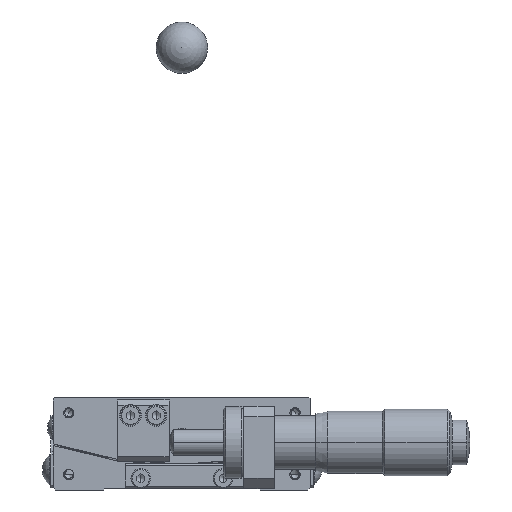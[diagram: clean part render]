
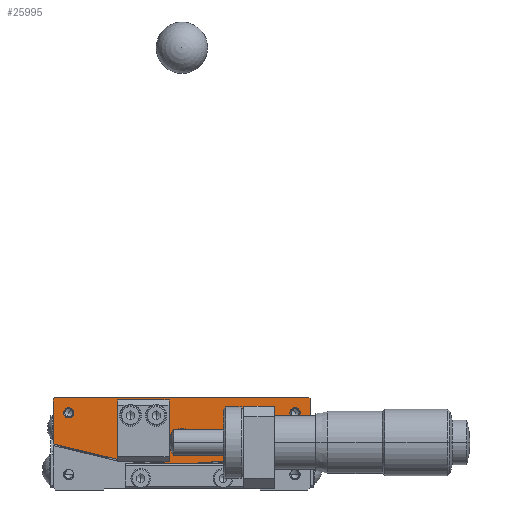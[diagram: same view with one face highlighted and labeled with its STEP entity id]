
A CAD part, front view. The second image highlights one B-rep face of the part: STEP entity #25995.
In plain terms, the highlighted planar face has unit normal (0, -1, 0).
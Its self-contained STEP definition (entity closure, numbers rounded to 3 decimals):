
#7739 = CARTESIAN_POINT ( 'NONE',  ( 0., -25., -8. ) ) ;
#7740 = AXIS2_PLACEMENT_3D ( 'NONE', #7739, #7801, #7800 ) ;
#7741 = CIRCLE ( 'NONE', #7740, 2. ) ;
#7742 = DIRECTION ( 'NONE',  ( 0., 0., -1. ) ) ;
#7743 = VECTOR ( 'NONE', #7742, 1000. ) ;
#7744 = CARTESIAN_POINT ( 'NONE',  ( -25., -25., -0.3 ) ) ;
#7745 = LINE ( 'NONE', #7744, #7743 ) ;
#7746 = CARTESIAN_POINT ( 'NONE',  ( -25., -25., -0.3 ) ) ;
#7747 = DIRECTION ( 'NONE',  ( -0.707, 0., -0.707 ) ) ;
#7748 = VECTOR ( 'NONE', #7747, 1000. ) ;
#7749 = CARTESIAN_POINT ( 'NONE',  ( -24.7, -25., 0. ) ) ;
#7750 = LINE ( 'NONE', #7749, #7748 ) ;
#7768 = CARTESIAN_POINT ( 'NONE',  ( 25., -25., -0.3 ) ) ;
#7769 = DIRECTION ( 'NONE',  ( 0., 0., 1. ) ) ;
#7770 = VECTOR ( 'NONE', #7769, 1000. ) ;
#7771 = CARTESIAN_POINT ( 'NONE',  ( 25., -25., -9.045 ) ) ;
#7772 = LINE ( 'NONE', #7771, #7770 ) ;
#7773 = CARTESIAN_POINT ( 'NONE',  ( 25., -25., -9.045 ) ) ;
#7774 = CARTESIAN_POINT ( 'NONE',  ( -25., -25., -9.045 ) ) ;
#7775 = DIRECTION ( 'NONE',  ( 1., 0., 0. ) ) ;
#7776 = DIRECTION ( 'NONE',  ( 0., -1., 0. ) ) ;
#7777 = CARTESIAN_POINT ( 'NONE',  ( 0., -25., 68. ) ) ;
#7778 = AXIS2_PLACEMENT_3D ( 'NONE', #7777, #7776, #7775 ) ;
#7779 = CIRCLE ( 'NONE', #7778, 81. ) ;
#7780 = DIRECTION ( 'NONE',  ( 1., 0., 0. ) ) ;
#7781 = DIRECTION ( 'NONE',  ( 0., -1., 0. ) ) ;
#7782 = CARTESIAN_POINT ( 'NONE',  ( 0., -25., 68. ) ) ;
#7783 = AXIS2_PLACEMENT_3D ( 'NONE', #7782, #7781, #7780 ) ;
#7784 = PLANE ( 'NONE',  #7783 ) ;
#7785 = FACE_BOUND ( 'NONE', #26051, .T. ) ;
#7786 = FACE_BOUND ( 'NONE', #26047, .T. ) ;
#7787 = FACE_BOUND ( 'NONE', #25989, .T. ) ;
#7788 = FACE_BOUND ( 'NONE', #25985, .T. ) ;
#7789 = FACE_OUTER_BOUND ( 'NONE', #25996, .T. ) ;
#7800 = DIRECTION ( 'NONE',  ( 0., 0., -1. ) ) ;
#7801 = DIRECTION ( 'NONE',  ( 0., -1., 0. ) ) ;
#7829 = DIRECTION ( 'NONE',  ( -0.707, 0., 0.707 ) ) ;
#7830 = VECTOR ( 'NONE', #7829, 1000. ) ;
#7831 = CARTESIAN_POINT ( 'NONE',  ( 25., -25., -0.3 ) ) ;
#7832 = LINE ( 'NONE', #7831, #7830 ) ;
#7839 = DIRECTION ( 'NONE',  ( 0., 0., 1. ) ) ;
#7840 = VECTOR ( 'NONE', #7839, 1000. ) ;
#7841 = CARTESIAN_POINT ( 'NONE',  ( -2.5, -25., -6.5 ) ) ;
#7842 = LINE ( 'NONE', #7841, #7840 ) ;
#7843 = CARTESIAN_POINT ( 'NONE',  ( -2.5, -25., -0.5 ) ) ;
#7844 = DIRECTION ( 'NONE',  ( 1., 0., 0. ) ) ;
#7845 = VECTOR ( 'NONE', #7844, 1000. ) ;
#7846 = CARTESIAN_POINT ( 'NONE',  ( -12.5, -25., -0.5 ) ) ;
#7847 = LINE ( 'NONE', #7846, #7845 ) ;
#7867 = CARTESIAN_POINT ( 'NONE',  ( 24.7, -25., 0. ) ) ;
#7868 = LINE ( 'NONE', #7867, #7932 ) ;
#7869 = CARTESIAN_POINT ( 'NONE',  ( 24.7, -25., 0. ) ) ;
#7870 = CARTESIAN_POINT ( 'NONE',  ( -12.5, -25., -0.5 ) ) ;
#7871 = DIRECTION ( 'NONE',  ( 0., 0., 1. ) ) ;
#7872 = VECTOR ( 'NONE', #7871, 1000. ) ;
#7873 = CARTESIAN_POINT ( 'NONE',  ( -12.5, -25., -6.5 ) ) ;
#7874 = LINE ( 'NONE', #7873, #7872 ) ;
#7875 = CARTESIAN_POINT ( 'NONE',  ( -2.5, -25., -6.5 ) ) ;
#7876 = CARTESIAN_POINT ( 'NONE',  ( -12.5, -25., -6.5 ) ) ;
#7877 = DIRECTION ( 'NONE',  ( 1., 0., 0. ) ) ;
#7878 = VECTOR ( 'NONE', #7877, 1000. ) ;
#7879 = CARTESIAN_POINT ( 'NONE',  ( -12.5, -25., -6.5 ) ) ;
#7880 = LINE ( 'NONE', #7879, #7878 ) ;
#7881 = DIRECTION ( 'NONE',  ( -0.555, 0., -0.832 ) ) ;
#7882 = DIRECTION ( 'NONE',  ( 0., -1., 0. ) ) ;
#7883 = CARTESIAN_POINT ( 'NONE',  ( -22., -25., -3. ) ) ;
#7884 = AXIS2_PLACEMENT_3D ( 'NONE', #7883, #7882, #7881 ) ;
#7885 = CIRCLE ( 'NONE', #7884, 1. ) ;
#7886 = DIRECTION ( 'NONE',  ( 0.555, 0., -0.832 ) ) ;
#7887 = DIRECTION ( 'NONE',  ( 0., -1., 0. ) ) ;
#7888 = CARTESIAN_POINT ( 'NONE',  ( 22., -25., -3. ) ) ;
#7889 = AXIS2_PLACEMENT_3D ( 'NONE', #7888, #7887, #7886 ) ;
#7890 = CIRCLE ( 'NONE', #7889, 1. ) ;
#7930 = CARTESIAN_POINT ( 'NONE',  ( -24.7, -25., 0. ) ) ;
#7931 = DIRECTION ( 'NONE',  ( -1., 0., 0. ) ) ;
#7932 = VECTOR ( 'NONE', #7931, 1000. ) ;
#13796 = CARTESIAN_POINT ( 'NONE',  ( 22.555, -25., -3.832 ) ) ;
#13797 = DIRECTION ( 'NONE',  ( 0.555, 0., -0.832 ) ) ;
#13798 = DIRECTION ( 'NONE',  ( 0., -1., 0. ) ) ;
#13799 = CARTESIAN_POINT ( 'NONE',  ( 22., -25., -3. ) ) ;
#13800 = AXIS2_PLACEMENT_3D ( 'NONE', #13799, #13798, #13797 ) ;
#13801 = CIRCLE ( 'NONE', #13800, 1. ) ;
#13802 = CARTESIAN_POINT ( 'NONE',  ( 21.445, -25., -2.168 ) ) ;
#13834 = CARTESIAN_POINT ( 'NONE',  ( -22.555, -25., -3.832 ) ) ;
#13835 = DIRECTION ( 'NONE',  ( -0.555, 0., -0.832 ) ) ;
#13836 = DIRECTION ( 'NONE',  ( 0., -1., 0. ) ) ;
#13837 = CARTESIAN_POINT ( 'NONE',  ( -22., -25., -3. ) ) ;
#13838 = AXIS2_PLACEMENT_3D ( 'NONE', #13837, #13836, #13835 ) ;
#13839 = CIRCLE ( 'NONE', #13838, 1. ) ;
#13840 = CARTESIAN_POINT ( 'NONE',  ( -21.445, -25., -2.168 ) ) ;
#14433 = CARTESIAN_POINT ( 'NONE',  ( 0., -25., -8. ) ) ;
#14434 = AXIS2_PLACEMENT_3D ( 'NONE', #14433, #14495, #14494 ) ;
#14435 = CIRCLE ( 'NONE', #14434, 2. ) ;
#14442 = CARTESIAN_POINT ( 'NONE',  ( 0., -25., -6. ) ) ;
#14493 = CARTESIAN_POINT ( 'NONE',  ( 0., -25., -10. ) ) ;
#14494 = DIRECTION ( 'NONE',  ( 0., 0., -1. ) ) ;
#14495 = DIRECTION ( 'NONE',  ( 0., -1., 0. ) ) ;
#25980 = ORIENTED_EDGE ( 'NONE', *, *, #25981, .T. ) ;
#25981 = EDGE_CURVE ( 'NONE', #26062, #25982, #7750, .T. ) ;
#25982 = VERTEX_POINT ( 'NONE', #7746 ) ;
#25983 = ORIENTED_EDGE ( 'NONE', *, *, #25984, .T. ) ;
#25984 = EDGE_CURVE ( 'NONE', #25982, #25999, #7745, .T. ) ;
#25985 = EDGE_LOOP ( 'NONE', ( #25986, #25988 ) ) ;
#25986 = ORIENTED_EDGE ( 'NONE', *, *, #25987, .F. ) ;
#25987 = EDGE_CURVE ( 'NONE', #39510, #39504, #7741, .T. ) ;
#25988 = ORIENTED_EDGE ( 'NONE', *, *, #39509, .F. ) ;
#25989 = EDGE_LOOP ( 'NONE', ( #25990, #26046 ) ) ;
#25990 = ORIENTED_EDGE ( 'NONE', *, *, #26045, .F. ) ;
#25995 = ADVANCED_FACE ( 'NONE', ( #7789, #7788, #7787, #7786, #7785 ), #7784, .T. ) ;
#25996 = EDGE_LOOP ( 'NONE', ( #25997, #26001, #26004, #26060, #25980, #25983 ) ) ;
#25997 = ORIENTED_EDGE ( 'NONE', *, *, #25998, .T. ) ;
#25998 = EDGE_CURVE ( 'NONE', #25999, #26000, #7779, .T. ) ;
#25999 = VERTEX_POINT ( 'NONE', #7774 ) ;
#26000 = VERTEX_POINT ( 'NONE', #7773 ) ;
#26001 = ORIENTED_EDGE ( 'NONE', *, *, #26002, .T. ) ;
#26002 = EDGE_CURVE ( 'NONE', #26000, #26003, #7772, .T. ) ;
#26003 = VERTEX_POINT ( 'NONE', #7768 ) ;
#26004 = ORIENTED_EDGE ( 'NONE', *, *, #26005, .T. ) ;
#26005 = EDGE_CURVE ( 'NONE', #26003, #26059, #7832, .T. ) ;
#26032 = ORIENTED_EDGE ( 'NONE', *, *, #26033, .T. ) ;
#26033 = EDGE_CURVE ( 'NONE', #26058, #26034, #7847, .T. ) ;
#26034 = VERTEX_POINT ( 'NONE', #7843 ) ;
#26035 = ORIENTED_EDGE ( 'NONE', *, *, #26036, .F. ) ;
#26036 = EDGE_CURVE ( 'NONE', #26055, #26034, #7842, .T. ) ;
#26045 = EDGE_CURVE ( 'NONE', #39160, #39155, #7890, .T. ) ;
#26046 = ORIENTED_EDGE ( 'NONE', *, *, #39159, .F. ) ;
#26047 = EDGE_LOOP ( 'NONE', ( #26048, #26050 ) ) ;
#26048 = ORIENTED_EDGE ( 'NONE', *, *, #26049, .F. ) ;
#26049 = EDGE_CURVE ( 'NONE', #39183, #39178, #7885, .T. ) ;
#26050 = ORIENTED_EDGE ( 'NONE', *, *, #39182, .F. ) ;
#26051 = EDGE_LOOP ( 'NONE', ( #26052, #26056, #26032, #26035 ) ) ;
#26052 = ORIENTED_EDGE ( 'NONE', *, *, #26053, .F. ) ;
#26053 = EDGE_CURVE ( 'NONE', #26054, #26055, #7880, .T. ) ;
#26054 = VERTEX_POINT ( 'NONE', #7876 ) ;
#26055 = VERTEX_POINT ( 'NONE', #7875 ) ;
#26056 = ORIENTED_EDGE ( 'NONE', *, *, #26057, .T. ) ;
#26057 = EDGE_CURVE ( 'NONE', #26054, #26058, #7874, .T. ) ;
#26058 = VERTEX_POINT ( 'NONE', #7870 ) ;
#26059 = VERTEX_POINT ( 'NONE', #7869 ) ;
#26060 = ORIENTED_EDGE ( 'NONE', *, *, #26061, .T. ) ;
#26061 = EDGE_CURVE ( 'NONE', #26059, #26062, #7868, .T. ) ;
#26062 = VERTEX_POINT ( 'NONE', #7930 ) ;
#39155 = VERTEX_POINT ( 'NONE', #13802 ) ;
#39159 = EDGE_CURVE ( 'NONE', #39155, #39160, #13801, .T. ) ;
#39160 = VERTEX_POINT ( 'NONE', #13796 ) ;
#39178 = VERTEX_POINT ( 'NONE', #13840 ) ;
#39182 = EDGE_CURVE ( 'NONE', #39178, #39183, #13839, .T. ) ;
#39183 = VERTEX_POINT ( 'NONE', #13834 ) ;
#39504 = VERTEX_POINT ( 'NONE', #14442 ) ;
#39509 = EDGE_CURVE ( 'NONE', #39504, #39510, #14435, .T. ) ;
#39510 = VERTEX_POINT ( 'NONE', #14493 ) ;
